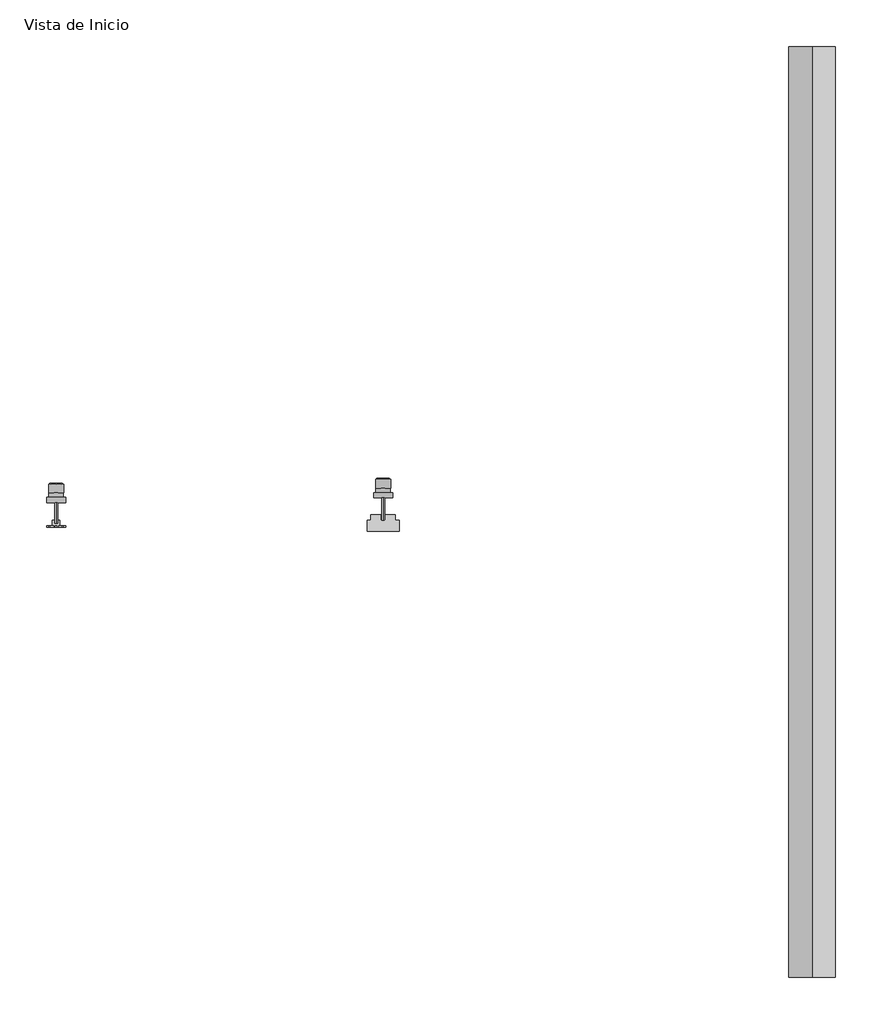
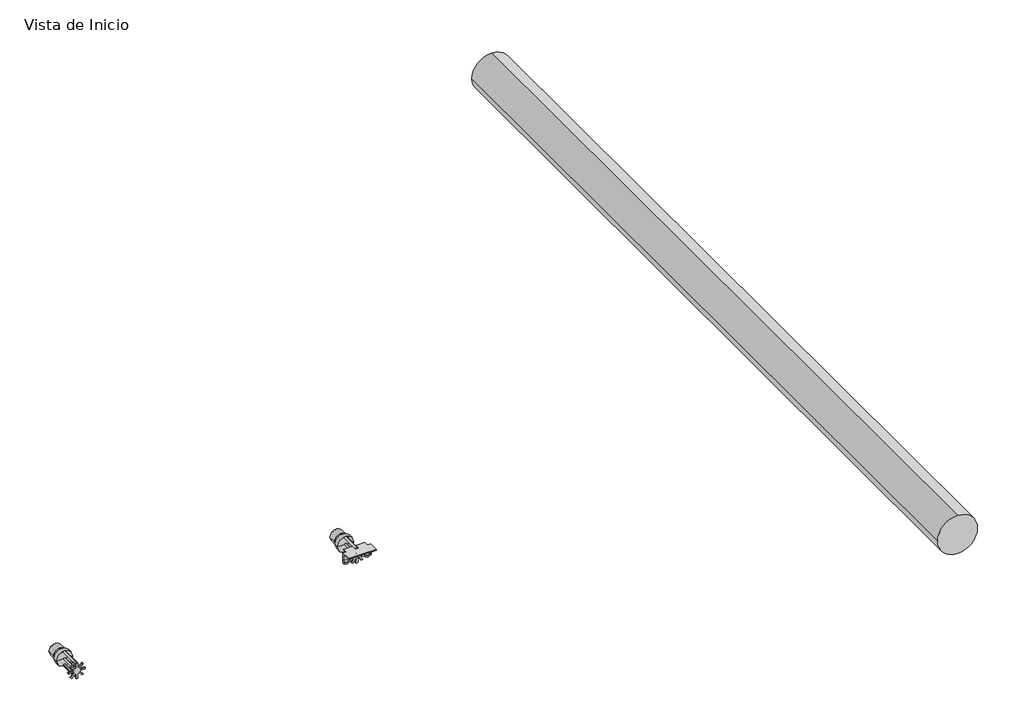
# One storey, incomplete: 2 pipe fittings, 1 pipe segment.
"""IFC4 building model written with IfcOpenShell, lengths in millimetres."""

from ifc_helpers import new_model, si_unit, point, frame, frame_2d, origin, place, context, project, spatial, circle_curve, trimmed, segment, composite_curve, outline, extrude, transform, mapped, element, save
from components import var_fcf59cf1, var_a1ba459a

model = new_model("IFC4")

# Units and contexts
model_context = context("Model", 3, world=origin())
ifc_project = project(units=[si_unit("LENGTHUNIT", "METRE", prefix="MILLI")], contexts=[model_context])

# Site, building, storey
site = spatial("IfcSite", under=ifc_project)
building = spatial("IfcBuilding", under=site)
storey = spatial("IfcBuildingStorey", under=building, Name="Vista de Inicio", Elevation=0.0)

# Pipe fittings
placement = place(None, origin())
var_shape = var_fcf59cf1(model_context)
element("IfcPipeFitting", 1, ObjectType="Rociadores_ContraincendiosRociadorVertical : Var.", at=placement, inside=storey, context=model_context, shape_type="MappedRepresentation", body=[
    mapped(var_shape, transform((1736.1832941, 3853.9009797, -29.0), x_axis=(1.0, 0.0, 0.0), y_axis=(0.0, 0.0, -1.0), z_axis=(0.0, 1.0, 0.0))),
])
var_2_shape = var_a1ba459a(model_context)
element("IfcPipeFitting", 2, ObjectType="Rociadores_ContraincendiosRociadorLateral : Var.", at=placement, inside=storey, context=model_context, shape_type="MappedRepresentation", body=[
    mapped(var_2_shape, transform((2164.7123505, 3860.2346578, 0.0), x_axis=(0.0, -1.0, 0.0), y_axis=(1.0, 0.0, 0.0), z_axis=(0.0, 0.0, 1.0))),
])

# Pipe segment
element("IfcPipeSegment", 3, ObjectType="Plastigama Contraincendios de 3/4\"-3\" (15ft, 4.57m)", at=placement, inside=storey, context=model_context, shape_type="SweptSolid", body=[
    extrude(outline(composite_curve([segment(trimmed(circle_curve(frame_2d((200.0, 2726.868964)), 30.1625), [point((200.0, 2696.706464))], [point((169.8375, 2726.868964))], False, "CARTESIAN"), True, "CONTINUOUS"), segment(trimmed(circle_curve(frame_2d((200.0, 2726.868964)), 30.1625), [point((169.8375, 2726.868964))], [point((200.0, 2757.031464))], False, "CARTESIAN"), True, "CONTINUOUS"), segment(trimmed(circle_curve(frame_2d((200.0, 2726.868964)), 30.1625), [point((200.0, 2757.031464))], [point((230.1625, 2726.868964))], False, "CARTESIAN"), True, "CONTINUOUS"), segment(trimmed(circle_curve(frame_2d((200.0, 2726.868964)), 30.1625), [point((230.1625, 2726.868964))], [point((200.0, 2696.706464))], False, "CARTESIAN"), True, "CONTINUOUS")], self_intersect=False)), frame((0.0, 3205.9276221, 0.0), z_axis=(0.0, 1.0, 0.0), x_axis=(0.0, 0.0, 1.0)), (0.0, 0.0, 1.0), 1220.0),
])

save(model, "model.ifc")
